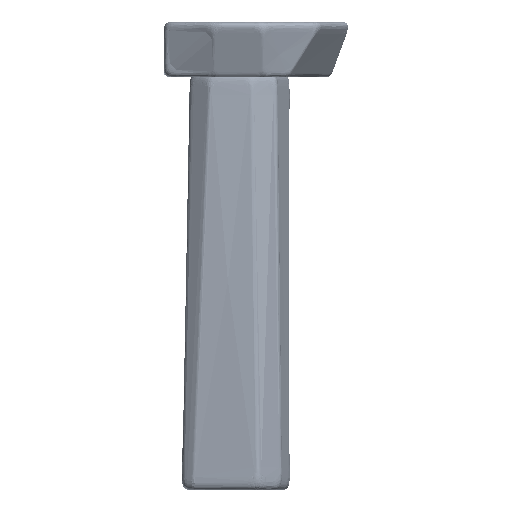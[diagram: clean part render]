
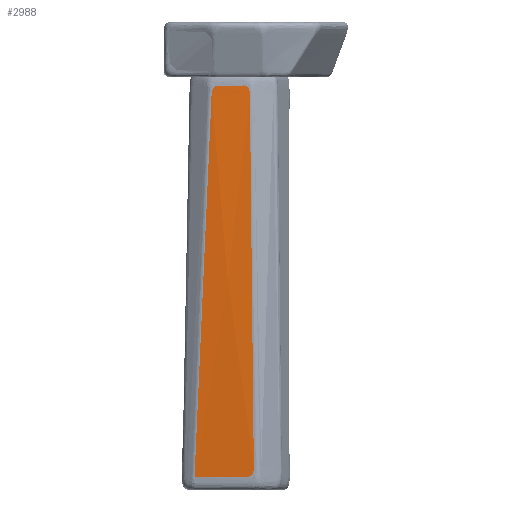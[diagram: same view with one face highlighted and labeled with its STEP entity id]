
A CAD part, left-side view. The second image highlights one B-rep face of the part: STEP entity #2988.
In plain terms, the highlighted free-form (B-spline) face has degree [1, 1] with [2, 2] control points.
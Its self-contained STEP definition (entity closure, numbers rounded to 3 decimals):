
#2988=ADVANCED_FACE('',(#5129),#34891,.T.);
#5129=FACE_OUTER_BOUND('',#7270,.T.);
#7270=EDGE_LOOP('',(#10000,#10001,#10002,#10003,#10004,#10005,#10006,#10007,
#10008,#10009));
#10000=ORIENTED_EDGE('',*,*,#21201,.T.);
#10001=ORIENTED_EDGE('',*,*,#21203,.T.);
#10002=ORIENTED_EDGE('',*,*,#21041,.F.);
#10003=ORIENTED_EDGE('',*,*,#21024,.T.);
#10004=ORIENTED_EDGE('',*,*,#21177,.T.);
#10005=ORIENTED_EDGE('',*,*,#21179,.T.);
#10006=ORIENTED_EDGE('',*,*,#21031,.F.);
#10007=ORIENTED_EDGE('',*,*,#21189,.T.);
#10008=ORIENTED_EDGE('',*,*,#21191,.T.);
#10009=ORIENTED_EDGE('',*,*,#21037,.F.);
#21024=EDGE_CURVE('',#31123,#31127,#26794,.T.);
#21031=EDGE_CURVE('',#31125,#31126,#26801,.T.);
#21037=EDGE_CURVE('',#31121,#31122,#26807,.T.);
#21041=EDGE_CURVE('',#31123,#31124,#26811,.T.);
#21177=EDGE_CURVE('',#31127,#31227,#26947,.T.);
#21179=EDGE_CURVE('',#31227,#31126,#26949,.T.);
#21189=EDGE_CURVE('',#31125,#31234,#26959,.T.);
#21191=EDGE_CURVE('',#31234,#31122,#26961,.T.);
#21201=EDGE_CURVE('',#31121,#31241,#26971,.T.);
#21203=EDGE_CURVE('',#31241,#31124,#26973,.T.);
#26794=B_SPLINE_CURVE_WITH_KNOTS('',3,(#60213,#60214,#60215,#60216),
 .UNSPECIFIED.,.F.,.F.,(4,4),(6.303,159.808),
 .UNSPECIFIED.);
#26801=B_SPLINE_CURVE_WITH_KNOTS('',3,(#60250,#60251,#60252,#60253,#60254),
 .UNSPECIFIED.,.F.,.F.,(4,1,4),(41.72,400.244,756.648),
 .UNSPECIFIED.);
#26807=B_SPLINE_CURVE_WITH_KNOTS('',3,(#60283,#60284,#60285,#60286),
 .UNSPECIFIED.,.F.,.F.,(4,4),(23.515,96.754),
 .UNSPECIFIED.);
#26811=B_SPLINE_CURVE_WITH_KNOTS('',3,(#60305,#60306,#60307,#60308),
 .UNSPECIFIED.,.F.,.F.,(4,4),(25.38,759.134),
 .UNSPECIFIED.);
#26947=B_SPLINE_CURVE_WITH_KNOTS('',5,(#61033,#61034,#61035,#61036,#61037,
#61038,#61039,#61040,#61041,#61042),.UNSPECIFIED.,.F.,.F.,(6,1,1,1,1,6),
(-1.,-0.8,-0.6,-0.4,-0.2,0.),.UNSPECIFIED.);
#26949=B_SPLINE_CURVE_WITH_KNOTS('',5,(#61053,#61054,#61055,#61056,#61057,
#61058,#61059,#61060,#61061,#61062),.UNSPECIFIED.,.F.,.F.,(6,1,1,1,1,6),
(0.,0.2,0.4,0.6,0.8,1.),.UNSPECIFIED.);
#26959=B_SPLINE_CURVE_WITH_KNOTS('',5,(#61153,#61154,#61155,#61156,#61157,
#61158,#61159,#61160,#61161,#61162),.UNSPECIFIED.,.F.,.F.,(6,1,1,1,1,6),
(-1.,-0.8,-0.6,-0.4,-0.2,0.),.UNSPECIFIED.);
#26961=B_SPLINE_CURVE_WITH_KNOTS('',5,(#61173,#61174,#61175,#61176,#61177,
#61178,#61179,#61180,#61181,#61182),.UNSPECIFIED.,.F.,.F.,(6,1,1,1,1,6),
(0.,0.2,0.4,0.6,0.8,1.),.UNSPECIFIED.);
#26971=B_SPLINE_CURVE_WITH_KNOTS('',5,(#61273,#61274,#61275,#61276,#61277,
#61278,#61279,#61280,#61281,#61282),.UNSPECIFIED.,.F.,.F.,(6,1,1,1,1,6),
(-1.,-0.8,-0.6,-0.4,-0.2,0.),.UNSPECIFIED.);
#26973=B_SPLINE_CURVE_WITH_KNOTS('',5,(#61293,#61294,#61295,#61296,#61297,
#61298,#61299,#61300,#61301,#61302),.UNSPECIFIED.,.F.,.F.,(6,1,1,1,1,6),
(0.,0.2,0.4,0.6,0.8,1.),.UNSPECIFIED.);
#31121=VERTEX_POINT('',#60019);
#31122=VERTEX_POINT('',#60020);
#31123=VERTEX_POINT('',#60021);
#31124=VERTEX_POINT('',#60022);
#31125=VERTEX_POINT('',#60023);
#31126=VERTEX_POINT('',#60024);
#31127=VERTEX_POINT('',#60025);
#31227=VERTEX_POINT('',#60125);
#31234=VERTEX_POINT('',#60132);
#31241=VERTEX_POINT('',#60139);
#34891=B_SPLINE_SURFACE_WITH_KNOTS('',1,1,((#50302,#50303),(#50304,#50305)),
 .UNSPECIFIED.,.F.,.F.,.F.,(2,2),(2,2),(0.,231.269),(0.,800.),
 .UNSPECIFIED.);
#50302=CARTESIAN_POINT('',(3021.471,-51.2,0.));
#50303=CARTESIAN_POINT('',(3017.722,-83.333,758.));
#50304=CARTESIAN_POINT('',(3004.833,-171.6,0.));
#50305=CARTESIAN_POINT('',(3018.692,-159.202,758.));
#60019=CARTESIAN_POINT('',(3017.925,-98.129,734.301));
#60020=CARTESIAN_POINT('',(3018.183,-144.543,734.749));
#60021=CARTESIAN_POINT('',(3020.948,-55.209,23.724));
#60022=CARTESIAN_POINT('',(3017.925,-86.143,717.438));
#60023=CARTESIAN_POINT('',(3017.964,-155.771,718.306));
#60024=CARTESIAN_POINT('',(3006.656,-162.875,41.151));
#60025=CARTESIAN_POINT('',(3007.899,-151.784,24.115));
#60125=CARTESIAN_POINT('',(3006.933,-159.262,27.167));
#60132=CARTESIAN_POINT('',(3018.187,-151.107,732.666));
#60139=CARTESIAN_POINT('',(3017.894,-91.356,732.032));
#60213=CARTESIAN_POINT('',(3020.948,-55.209,23.724));
#60214=CARTESIAN_POINT('',(3016.597,-87.401,23.854));
#60215=CARTESIAN_POINT('',(3012.247,-119.592,23.985));
#60216=CARTESIAN_POINT('',(3007.899,-151.784,24.115));
#60250=CARTESIAN_POINT('',(3017.964,-155.771,718.306));
#60251=CARTESIAN_POINT('',(3016.032,-156.828,605.107));
#60252=CARTESIAN_POINT('',(3012.26,-159.091,379.385));
#60253=CARTESIAN_POINT('',(3008.522,-161.586,153.672));
#60254=CARTESIAN_POINT('',(3006.656,-162.875,41.151));
#60283=CARTESIAN_POINT('',(3017.925,-98.129,734.301));
#60284=CARTESIAN_POINT('',(3018.009,-113.601,734.45));
#60285=CARTESIAN_POINT('',(3018.095,-129.072,734.6));
#60286=CARTESIAN_POINT('',(3018.183,-144.543,734.749));
#60305=CARTESIAN_POINT('',(3020.948,-55.209,23.724));
#60306=CARTESIAN_POINT('',(3019.832,-65.518,254.957));
#60307=CARTESIAN_POINT('',(3018.764,-75.719,486.2));
#60308=CARTESIAN_POINT('',(3017.925,-86.143,717.438));
#61033=CARTESIAN_POINT('',(3007.899,-151.784,24.115));
#61034=CARTESIAN_POINT('',(3007.852,-152.13,24.116));
#61035=CARTESIAN_POINT('',(3007.759,-152.816,24.139));
#61036=CARTESIAN_POINT('',(3007.625,-153.825,24.235));
#61037=CARTESIAN_POINT('',(3007.453,-155.12,24.498));
#61038=CARTESIAN_POINT('',(3007.256,-156.638,25.077));
#61039=CARTESIAN_POINT('',(3007.115,-157.758,25.76));
#61040=CARTESIAN_POINT('',(3007.019,-158.536,26.408));
#61041=CARTESIAN_POINT('',(3006.961,-159.026,26.903));
#61042=CARTESIAN_POINT('',(3006.933,-159.262,27.167));
#61053=CARTESIAN_POINT('',(3006.933,-159.262,27.167));
#61054=CARTESIAN_POINT('',(3006.9,-159.537,27.474));
#61055=CARTESIAN_POINT('',(3006.838,-160.065,28.13));
#61056=CARTESIAN_POINT('',(3006.757,-160.791,29.252));
#61057=CARTESIAN_POINT('',(3006.673,-161.615,31.035));
#61058=CARTESIAN_POINT('',(3006.612,-162.374,33.785));
#61059=CARTESIAN_POINT('',(3006.603,-162.741,36.43));
#61060=CARTESIAN_POINT('',(3006.62,-162.869,38.681));
#61061=CARTESIAN_POINT('',(3006.642,-162.885,40.307));
#61062=CARTESIAN_POINT('',(3006.656,-162.875,41.151));
#61153=CARTESIAN_POINT('',(3017.964,-155.771,718.306));
#61154=CARTESIAN_POINT('',(3017.98,-155.762,719.217));
#61155=CARTESIAN_POINT('',(3018.009,-155.704,720.964));
#61156=CARTESIAN_POINT('',(3018.05,-155.496,723.376));
#61157=CARTESIAN_POINT('',(3018.097,-154.978,726.196));
#61158=CARTESIAN_POINT('',(3018.142,-153.963,729.064));
#61159=CARTESIAN_POINT('',(3018.166,-152.907,730.824));
#61160=CARTESIAN_POINT('',(3018.179,-152.024,731.85));
#61161=CARTESIAN_POINT('',(3018.184,-151.414,732.413));
#61162=CARTESIAN_POINT('',(3018.187,-151.107,732.666));
#61173=CARTESIAN_POINT('',(3018.187,-151.107,732.666));
#61174=CARTESIAN_POINT('',(3018.189,-150.844,732.883));
#61175=CARTESIAN_POINT('',(3018.193,-150.314,733.277));
#61176=CARTESIAN_POINT('',(3018.196,-149.515,733.755));
#61177=CARTESIAN_POINT('',(3018.197,-148.459,734.214));
#61178=CARTESIAN_POINT('',(3018.195,-147.157,734.565));
#61179=CARTESIAN_POINT('',(3018.191,-146.118,734.705));
#61180=CARTESIAN_POINT('',(3018.188,-145.333,734.747));
#61181=CARTESIAN_POINT('',(3018.185,-144.807,734.752));
#61182=CARTESIAN_POINT('',(3018.183,-144.543,734.749));
#61273=CARTESIAN_POINT('',(3017.925,-98.129,734.301));
#61274=CARTESIAN_POINT('',(3017.924,-97.859,734.298));
#61275=CARTESIAN_POINT('',(3017.921,-97.32,734.283));
#61276=CARTESIAN_POINT('',(3017.916,-96.515,734.223));
#61277=CARTESIAN_POINT('',(3017.911,-95.447,734.058));
#61278=CARTESIAN_POINT('',(3017.904,-94.104,733.671));
#61279=CARTESIAN_POINT('',(3017.899,-93.011,733.178));
#61280=CARTESIAN_POINT('',(3017.896,-92.182,732.672));
#61281=CARTESIAN_POINT('',(3017.894,-91.63,732.259));
#61282=CARTESIAN_POINT('',(3017.894,-91.356,732.032));
#61293=CARTESIAN_POINT('',(3017.894,-91.356,732.032));
#61294=CARTESIAN_POINT('',(3017.893,-91.038,731.769));
#61295=CARTESIAN_POINT('',(3017.891,-90.407,731.188));
#61296=CARTESIAN_POINT('',(3017.89,-89.486,730.138));
#61297=CARTESIAN_POINT('',(3017.891,-88.365,728.351));
#61298=CARTESIAN_POINT('',(3017.897,-87.239,725.451));
#61299=CARTESIAN_POINT('',(3017.906,-86.61,722.596));
#61300=CARTESIAN_POINT('',(3017.915,-86.308,720.146));
#61301=CARTESIAN_POINT('',(3017.921,-86.185,718.366));
#61302=CARTESIAN_POINT('',(3017.925,-86.143,717.438));
